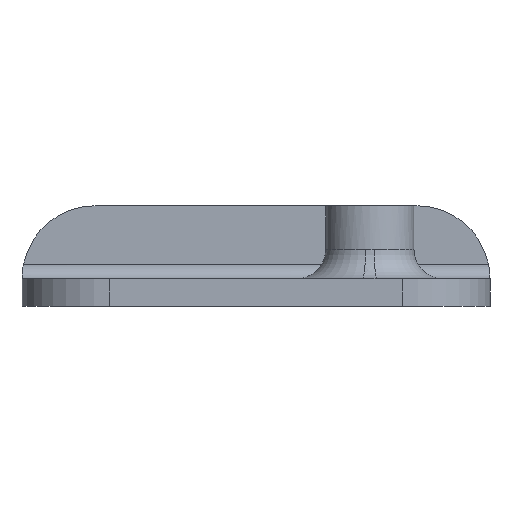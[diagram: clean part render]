
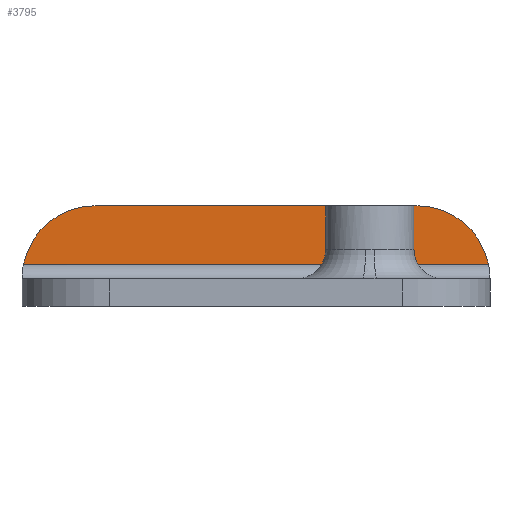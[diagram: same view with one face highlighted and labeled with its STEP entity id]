
A CAD part, front view. The second image highlights one B-rep face of the part: STEP entity #3795.
In plain terms, the highlighted planar face has unit normal (0, -1, 0).
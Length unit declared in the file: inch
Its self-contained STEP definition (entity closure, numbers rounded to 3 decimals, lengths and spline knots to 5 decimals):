
#4 = AXIS2_PLACEMENT_3D ( 'NONE', #1322, #3483, #1633 ) ;
#172 = VERTEX_POINT ( 'NONE', #2112 ) ;
#178 = CARTESIAN_POINT ( 'NONE',  ( 0.5, -5., 0.1875 ) ) ;
#481 = DIRECTION ( 'NONE',  ( 0., 0., 1. ) ) ;
#623 = ORIENTED_EDGE ( 'NONE', *, *, #1695, .T. ) ;
#748 = DIRECTION ( 'NONE',  ( 1., 0., 0. ) ) ;
#982 = CIRCLE ( 'NONE', #1365, 0.5 ) ;
#1020 = VERTEX_POINT ( 'NONE', #1524 ) ;
#1322 = CARTESIAN_POINT ( 'NONE',  ( 2.70466, -5., 0.1875 ) ) ;
#1365 = AXIS2_PLACEMENT_3D ( 'NONE', #178, #2347, #481 ) ;
#1408 = EDGE_CURVE ( 'NONE', #3966, #172, #2759, .T. ) ;
#1524 = CARTESIAN_POINT ( 'NONE',  ( 3.19456, -5., 0.2875 ) ) ;
#1633 = DIRECTION ( 'NONE',  ( 0., 0., 1. ) ) ;
#1674 = PLANE ( 'NONE',  #2409 ) ;
#1695 = EDGE_CURVE ( 'NONE', #1020, #172, #3508, .T. ) ;
#1739 = FACE_OUTER_BOUND ( 'NONE', #2577, .T. ) ;
#1863 = ORIENTED_EDGE ( 'NONE', *, *, #2064, .T. ) ;
#1987 = EDGE_CURVE ( 'NONE', #2992, #1020, #3450, .T. ) ;
#1995 = DIRECTION ( 'NONE',  ( 0., 0., 1. ) ) ;
#2064 = EDGE_CURVE ( 'NONE', #3966, #2992, #982, .T. ) ;
#2112 = CARTESIAN_POINT ( 'NONE',  ( 2.70466, -5., 0.6875 ) ) ;
#2186 = ORIENTED_EDGE ( 'NONE', *, *, #1408, .F. ) ;
#2283 = ORIENTED_EDGE ( 'NONE', *, *, #1987, .T. ) ;
#2347 = DIRECTION ( 'NONE',  ( 0., -1., 0. ) ) ;
#2375 = CARTESIAN_POINT ( 'NONE',  ( 0.5, -5., 0.6875 ) ) ;
#2409 = AXIS2_PLACEMENT_3D ( 'NONE', #3514, #3842, #1995 ) ;
#2577 = EDGE_LOOP ( 'NONE', ( #1863, #2283, #623, #2186 ) ) ;
#2754 = VECTOR ( 'NONE', #748, 39.37008 ) ;
#2759 = LINE ( 'NONE', #3558, #3375 ) ;
#2930 = CARTESIAN_POINT ( 'NONE',  ( 0., -5., 0.2875 ) ) ;
#2992 = VERTEX_POINT ( 'NONE', #3271 ) ;
#3271 = CARTESIAN_POINT ( 'NONE',  ( 0.0101, -5., 0.2875 ) ) ;
#3375 = VECTOR ( 'NONE', #3866, 39.37008 ) ;
#3450 = LINE ( 'NONE', #2930, #2754 ) ;
#3483 = DIRECTION ( 'NONE',  ( 0., -1., 0. ) ) ;
#3508 = CIRCLE ( 'NONE', #4, 0.5 ) ;
#3514 = CARTESIAN_POINT ( 'NONE',  ( 0., -5., 0.6875 ) ) ;
#3558 = CARTESIAN_POINT ( 'NONE',  ( 0., -5., 0.6875 ) ) ;
#3795 = ADVANCED_FACE ( 'NONE', ( #1739 ), #1674, .F. ) ;
#3842 = DIRECTION ( 'NONE',  ( 0., 1., 0. ) ) ;
#3866 = DIRECTION ( 'NONE',  ( 1., 0., 0. ) ) ;
#3966 = VERTEX_POINT ( 'NONE', #2375 ) ;
